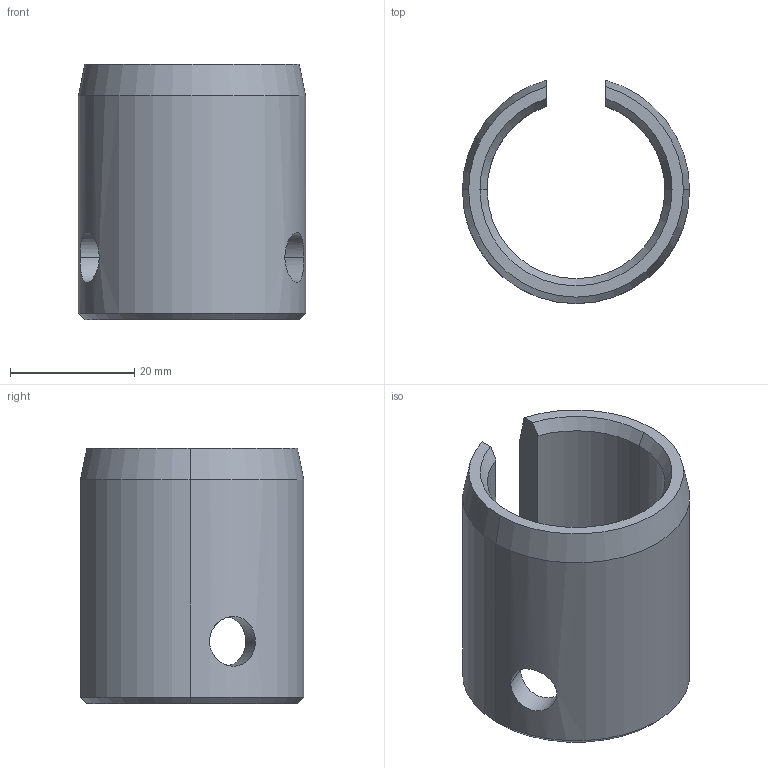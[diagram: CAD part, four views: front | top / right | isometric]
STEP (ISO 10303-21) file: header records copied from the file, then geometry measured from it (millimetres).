
FILE_DESCRIPTION (( 'STEP AP203' ), '1' );
FILE_NAME ('KBSH053P18.STEP', '2023-08-01T05:19:16', ( '' ), ( '' ), 'SwSTEP 2.0', 'SolidWorks 2017', '' );
FILE_SCHEMA (( 'CONFIG_CONTROL_DESIGN' ));
Length unit declared in the file: millimetre
Products named in the file (1): KBSH053P18
Bounding box: 36.51 x 35.88 x 41 mm (x, y, z)
Volume: 14161.4 mm3; surface area: 8357.2 mm2
Topology: 1 solids, 1 shells, 26 faces, 64 edges, 40 vertices
Faces by surface type: cone 12, cylinder 10, plane 4
Entity records: 1105 total; most frequent: CARTESIAN_POINT 415, ORIENTED_EDGE 128, DIRECTION 126, EDGE_CURVE 64, AXIS2_PLACEMENT_3D 51, VERTEX_POINT 40, EDGE_LOOP 30, FACE_OUTER_BOUND 26
